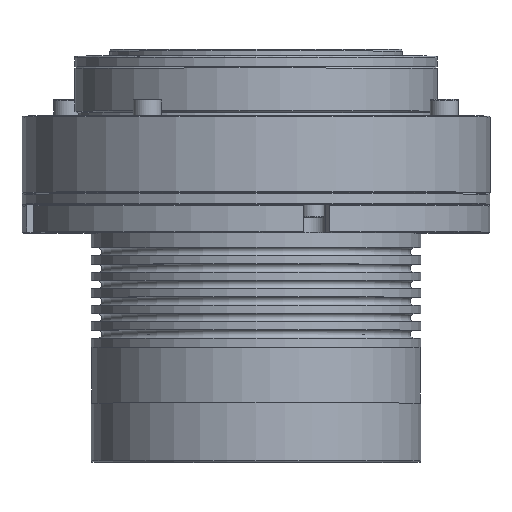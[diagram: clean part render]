
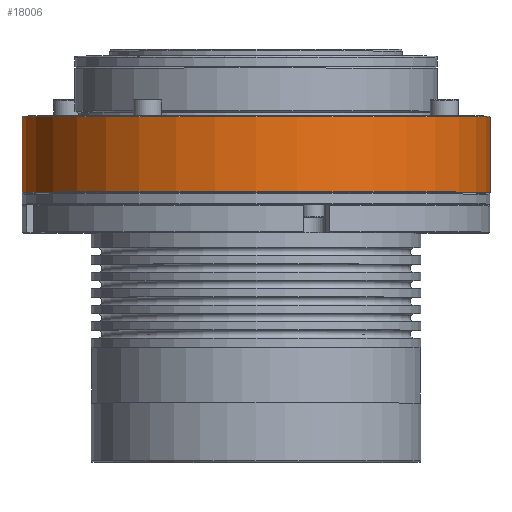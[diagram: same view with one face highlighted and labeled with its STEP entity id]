
A CAD part, top view. The second image highlights one B-rep face of the part: STEP entity #18006.
In plain terms, the highlighted cylindrical face has radius 71 mm (diameter 142 mm), a full revolution.
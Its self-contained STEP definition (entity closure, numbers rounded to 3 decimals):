
#258 = DIRECTION ( 'NONE',  ( 0., 1., 0. ) ) ;
#2416 = CARTESIAN_POINT ( 'NONE',  ( 0., 0.3, -71. ) ) ;
#3057 = AXIS2_PLACEMENT_3D ( 'NONE', #19845, #258, #8773 ) ;
#3300 = ORIENTED_EDGE ( 'NONE', *, *, #14858, .F. ) ;
#3463 = CARTESIAN_POINT ( 'NONE',  ( 0., 23.4, 0. ) ) ;
#5962 = VERTEX_POINT ( 'NONE', #8171 ) ;
#7123 = CIRCLE ( 'NONE', #9334, 71. ) ;
#8171 = CARTESIAN_POINT ( 'NONE',  ( 0., 23.1, -71. ) ) ;
#8431 = DIRECTION ( 'NONE',  ( 0., 0., -1. ) ) ;
#8773 = DIRECTION ( 'NONE',  ( 0., 0., -1. ) ) ;
#9334 = AXIS2_PLACEMENT_3D ( 'NONE', #27485, #16850, #8431 ) ;
#9603 = FACE_OUTER_BOUND ( 'NONE', #22051, .T. ) ;
#9735 = CYLINDRICAL_SURFACE ( 'NONE', #20595, 71. ) ;
#14858 = EDGE_CURVE ( 'NONE', #5962, #5962, #7123, .T. ) ;
#16850 = DIRECTION ( 'NONE',  ( 0., 1., 0. ) ) ;
#18006 = ADVANCED_FACE ( 'NONE', ( #9603, #18288 ), #9735, .T. ) ;
#18288 = FACE_OUTER_BOUND ( 'NONE', #21638, .T. ) ;
#19156 = CIRCLE ( 'NONE', #3057, 71. ) ;
#19845 = CARTESIAN_POINT ( 'NONE',  ( 0., 0.3, 0. ) ) ;
#20527 = DIRECTION ( 'NONE',  ( 0., 0., -1. ) ) ;
#20595 = AXIS2_PLACEMENT_3D ( 'NONE', #3463, #24739, #20527 ) ;
#20683 = EDGE_CURVE ( 'NONE', #21586, #21586, #19156, .T. ) ;
#21586 = VERTEX_POINT ( 'NONE', #2416 ) ;
#21638 = EDGE_LOOP ( 'NONE', ( #24244 ) ) ;
#22051 = EDGE_LOOP ( 'NONE', ( #3300 ) ) ;
#24244 = ORIENTED_EDGE ( 'NONE', *, *, #20683, .T. ) ;
#24739 = DIRECTION ( 'NONE',  ( 0., -1., 0. ) ) ;
#27485 = CARTESIAN_POINT ( 'NONE',  ( 0., 23.1, 0. ) ) ;
